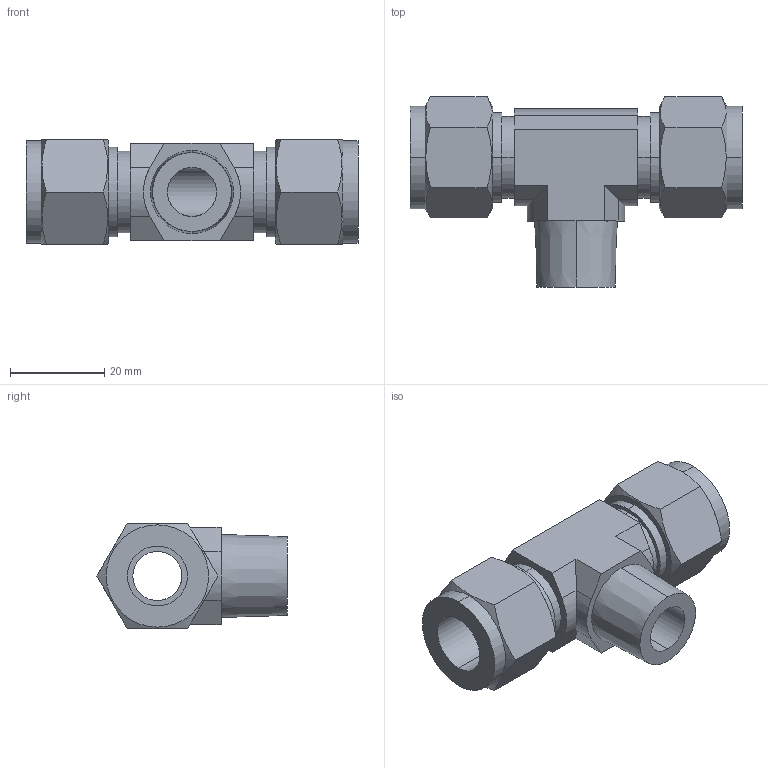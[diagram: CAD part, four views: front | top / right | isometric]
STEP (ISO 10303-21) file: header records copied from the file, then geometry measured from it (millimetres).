
FILE_DESCRIPTION (( 'STEP AP203' ), '1' );
FILE_NAME ('DTN 08-06 SS.STEP', '2009-09-08T10:09:41', ( 'Your User Name' ), ( 'Your Company Name' ), 'SwSTEP 2.0', 'SolidWorks 2008', '' );
FILE_SCHEMA (( 'CONFIG_CONTROL_DESIGN' ));
Length unit declared in the file: millimetre
Products named in the file (1): DTN 08-06 SS
Bounding box: 70.4 x 40.33 x 22.23 mm (x, y, z)
Volume: 21264.2 mm3; surface area: 10496.7 mm2
Topology: 1 solids, 1 shells, 72 faces, 174 edges, 112 vertices
Faces by surface type: plane 36, cylinder 26, cone 10
Entity records: 2387 total; most frequent: CARTESIAN_POINT 643, ORIENTED_EDGE 348, DIRECTION 336, EDGE_CURVE 174, AXIS2_PLACEMENT_3D 125, VERTEX_POINT 112, VECTOR 86, LINE 86
